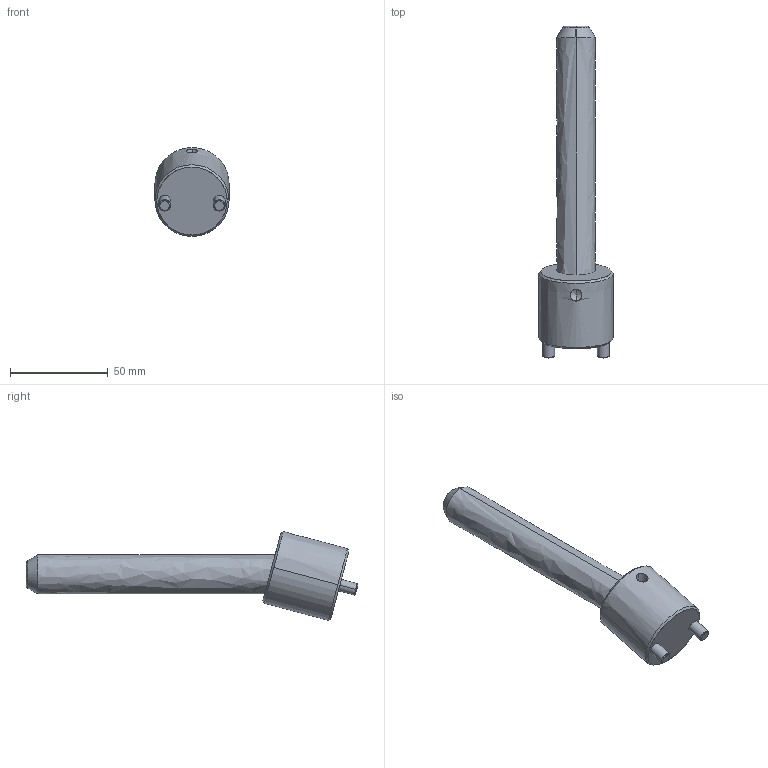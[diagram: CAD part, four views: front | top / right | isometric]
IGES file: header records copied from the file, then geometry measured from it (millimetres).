
Start section: START RECORD GO HERE.
Global section: file name: CI1520125.igs; native system: DASSAULT SYSTEMES CATIA V5 R20 - www.3ds.com; preprocessor: CATIA Version 5 Release 20 ; author: r.borello; organization: CFTORINO; date: 20190621.161538; units: millimetre
Bounding box: 38 x 170.15 x 45.51 mm (x, y, z)
Surface area: 19004.3 mm2 (no closed solid volume)
Topology: 0 solids, 0 shells, 39 faces, 162 edges, 160 vertices
Faces by surface type: revolution 32, plane 7
